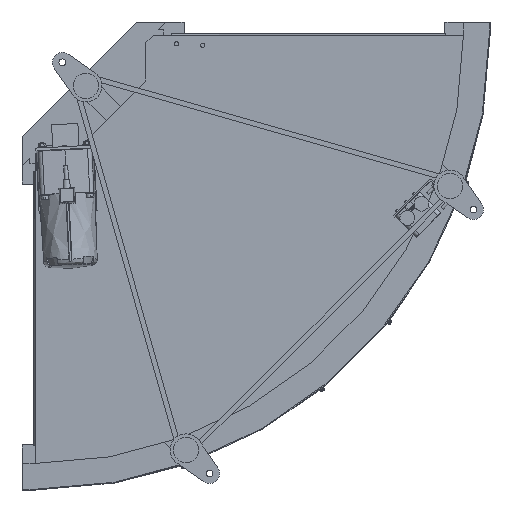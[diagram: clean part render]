
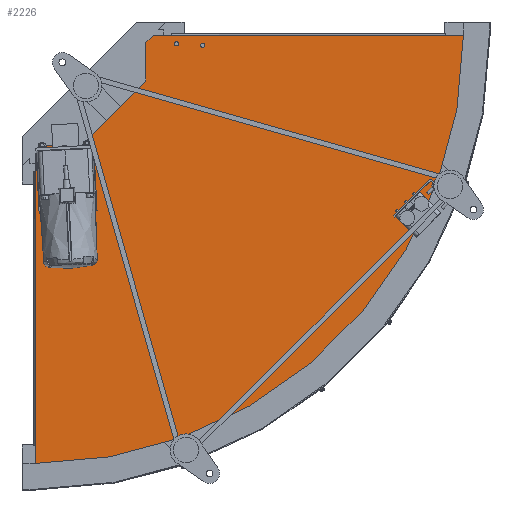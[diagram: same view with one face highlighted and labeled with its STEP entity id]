
A CAD part, front view. The second image highlights one B-rep face of the part: STEP entity #2226.
In plain terms, the highlighted planar face has unit normal (0, -1, 0).
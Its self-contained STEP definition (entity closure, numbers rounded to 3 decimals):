
#2226=ADVANCED_FACE('',(#7707,#7708,#7709,#7710,#7711),#7706,.F.);
#7706=PLANE('',#16203);
#7707=FACE_OUTER_BOUND('',#16204,.T.);
#7708=FACE_BOUND('',#16205,.T.);
#7709=FACE_BOUND('',#16206,.T.);
#7710=FACE_BOUND('',#16207,.T.);
#7711=FACE_BOUND('',#16208,.T.);
#16200=CARTESIAN_POINT('',(-10.,-152.7,-822.5));
#16201=DIRECTION('',(0.,1.,0.));
#16202=DIRECTION('',(0.,0.,1.));
#16203=AXIS2_PLACEMENT_3D('',#16200,#16201,#16202);
#16204=EDGE_LOOP('',(#23092,#23093,#23094,#23095,#23096,#23097,#23098,#23099));
#16205=EDGE_LOOP('',(#23100));
#16206=EDGE_LOOP('',(#23101));
#16207=EDGE_LOOP('',(#23102,#23103));
#16208=EDGE_LOOP('',(#23104,#23105));
#23092=ORIENTED_EDGE('',*,*,#26849,.T.);
#23093=ORIENTED_EDGE('',*,*,#26700,.F.);
#23094=ORIENTED_EDGE('',*,*,#26694,.F.);
#23095=ORIENTED_EDGE('',*,*,#26698,.F.);
#23096=ORIENTED_EDGE('',*,*,#26974,.T.);
#23097=ORIENTED_EDGE('',*,*,#26960,.F.);
#23098=ORIENTED_EDGE('',*,*,#26975,.F.);
#23099=ORIENTED_EDGE('',*,*,#26961,.F.);
#23100=ORIENTED_EDGE('',*,*,#26711,.F.);
#23101=ORIENTED_EDGE('',*,*,#26703,.F.);
#23102=ORIENTED_EDGE('',*,*,#26717,.F.);
#23103=ORIENTED_EDGE('',*,*,#26715,.F.);
#23104=ORIENTED_EDGE('',*,*,#26709,.F.);
#23105=ORIENTED_EDGE('',*,*,#26707,.F.);
#26694=EDGE_CURVE('',#35323,#35330,#35331,.T.);
#26698=EDGE_CURVE('',#35350,#35323,#35357,.T.);
#26700=EDGE_CURVE('',#35330,#35370,#35371,.T.);
#26703=EDGE_CURVE('',#35390,#35390,#35391,.T.);
#26707=EDGE_CURVE('',#35417,#35418,#35419,.T.);
#26709=EDGE_CURVE('',#35418,#35417,#35431,.T.);
#26711=EDGE_CURVE('',#35444,#35444,#35445,.T.);
#26715=EDGE_CURVE('',#35471,#35472,#35473,.T.);
#26717=EDGE_CURVE('',#35472,#35471,#35485,.T.);
#26849=EDGE_CURVE('',#36388,#35370,#36389,.T.);
#26960=EDGE_CURVE('',#37126,#37091,#37133,.T.);
#26961=EDGE_CURVE('',#36388,#37139,#37140,.T.);
#26974=EDGE_CURVE('',#35350,#37091,#37225,.T.);
#26975=EDGE_CURVE('',#37139,#37126,#37231,.T.);
#35323=VERTEX_POINT('',#50348);
#35330=VERTEX_POINT('',#50352);
#35331=LINE('',#50353,#50354);
#35350=VERTEX_POINT('',#50363);
#35357=LINE('',#50367,#50368);
#35370=VERTEX_POINT('',#50374);
#35371=LINE('',#50375,#50376);
#35390=VERTEX_POINT('',#50386);
#35391=CIRCLE('',#50390,4.);
#35417=VERTEX_POINT('',#50403);
#35418=VERTEX_POINT('',#50404);
#35419=CIRCLE('',#50408,4.);
#35431=CIRCLE('',#50414,4.);
#35444=VERTEX_POINT('',#50420);
#35445=CIRCLE('',#50424,4.);
#35471=VERTEX_POINT('',#50437);
#35472=VERTEX_POINT('',#50438);
#35473=CIRCLE('',#50442,4.);
#35485=CIRCLE('',#50448,4.);
#36388=VERTEX_POINT('',#51691);
#36389=LINE('',#51692,#51693);
#37091=VERTEX_POINT('',#52308);
#37126=VERTEX_POINT('',#52328);
#37133=LINE('',#52332,#52333);
#37139=VERTEX_POINT('',#52335);
#37140=LINE('',#52336,#52337);
#37225=LINE('',#52383,#52384);
#37231=CIRCLE('',#52389,812.5);
#50348=CARTESIAN_POINT('',(86.985,-152.7,-210.));
#50352=CARTESIAN_POINT('',(210.,-152.7,-86.985));
#50353=CARTESIAN_POINT('',(86.985,-152.7,-210.));
#50354=VECTOR('',#50355,173.97);
#50355=DIRECTION('',(0.707,0.,0.707));
#50363=CARTESIAN_POINT('',(14.1,-152.7,-210.));
#50367=CARTESIAN_POINT('',(14.1,-152.7,-210.));
#50368=VECTOR('',#50369,72.885);
#50369=DIRECTION('',(1.,0.,0.));
#50374=CARTESIAN_POINT('',(210.,-152.7,-14.1));
#50375=CARTESIAN_POINT('',(210.,-152.7,-86.985));
#50376=VECTOR('',#50377,72.885);
#50377=DIRECTION('',(0.,0.,1.));
#50386=CARTESIAN_POINT('',(16.5,-152.7,-264.));
#50387=CARTESIAN_POINT('',(16.5,-152.7,-268.));
#50388=DIRECTION('',(0.,-1.,0.));
#50389=DIRECTION('',(0.,0.,1.));
#50390=AXIS2_PLACEMENT_3D('',#50387,#50388,#50389);
#50403=CARTESIAN_POINT('',(317.937,-152.7,-23.));
#50404=CARTESIAN_POINT('',(317.937,-152.7,-15.));
#50405=CARTESIAN_POINT('',(317.937,-152.7,-19.));
#50406=DIRECTION('',(0.,-1.,0.));
#50407=DIRECTION('',(0.,0.,-1.));
#50408=AXIS2_PLACEMENT_3D('',#50405,#50406,#50407);
#50411=CARTESIAN_POINT('',(317.937,-152.7,-19.));
#50412=DIRECTION('',(0.,-1.,0.));
#50413=DIRECTION('',(0.,0.,-1.));
#50414=AXIS2_PLACEMENT_3D('',#50411,#50412,#50413);
#50420=CARTESIAN_POINT('',(19.,-152.7,-313.937));
#50421=CARTESIAN_POINT('',(19.,-152.7,-317.937));
#50422=DIRECTION('',(0.,-1.,0.));
#50423=DIRECTION('',(0.,0.,1.));
#50424=AXIS2_PLACEMENT_3D('',#50421,#50422,#50423);
#50437=CARTESIAN_POINT('',(268.,-152.7,-20.5));
#50438=CARTESIAN_POINT('',(268.,-152.7,-12.5));
#50439=CARTESIAN_POINT('',(268.,-152.7,-16.5));
#50440=DIRECTION('',(0.,-1.,0.));
#50441=DIRECTION('',(0.,0.,-1.));
#50442=AXIS2_PLACEMENT_3D('',#50439,#50440,#50441);
#50445=CARTESIAN_POINT('',(268.,-152.7,-16.5));
#50446=DIRECTION('',(0.,-1.,0.));
#50447=DIRECTION('',(0.,0.,-1.));
#50448=AXIS2_PLACEMENT_3D('',#50445,#50446,#50447);
#51691=CARTESIAN_POINT('',(224.1,-152.7,0.));
#51692=CARTESIAN_POINT('',(224.1,-152.7,0.));
#51693=VECTOR('',#51694,19.94);
#51694=DIRECTION('',(-0.707,0.,-0.707));
#52308=CARTESIAN_POINT('',(0.,-152.7,-224.1));
#52328=CARTESIAN_POINT('',(0.,-152.7,-812.5));
#52332=CARTESIAN_POINT('',(0.,-152.7,-812.5));
#52333=VECTOR('',#52334,588.4);
#52334=DIRECTION('',(0.,0.,1.));
#52335=CARTESIAN_POINT('',(812.5,-152.7,0.));
#52336=CARTESIAN_POINT('',(224.1,-152.7,0.));
#52337=VECTOR('',#52338,588.4);
#52338=DIRECTION('',(1.,0.,0.));
#52383=CARTESIAN_POINT('',(14.1,-152.7,-210.));
#52384=VECTOR('',#52385,19.94);
#52385=DIRECTION('',(-0.707,0.,-0.707));
#52386=CARTESIAN_POINT('',(0.,-152.7,0.));
#52387=DIRECTION('',(0.,1.,0.));
#52388=DIRECTION('',(0.,0.,-1.));
#52389=AXIS2_PLACEMENT_3D('',#52386,#52387,#52388);
